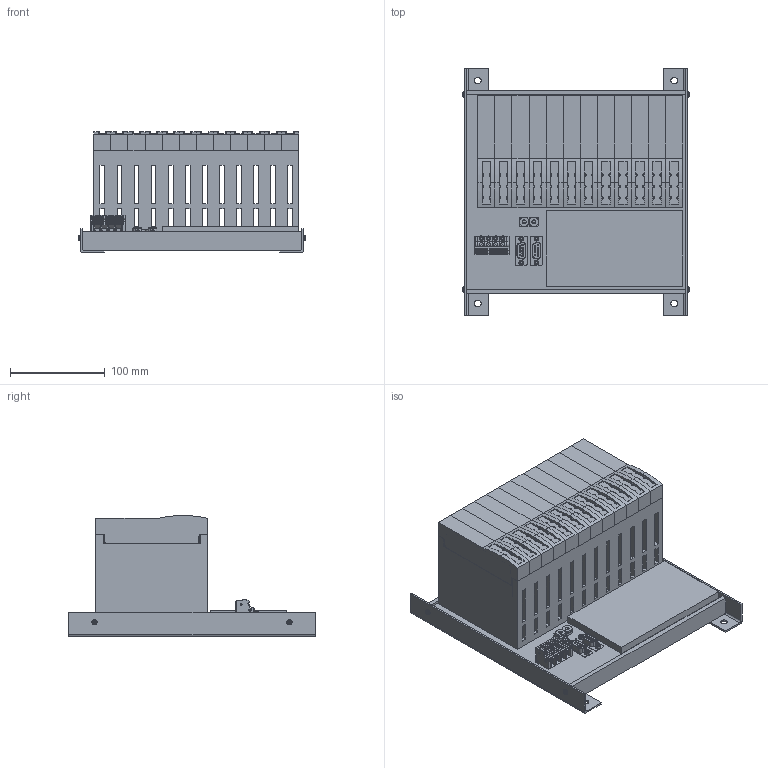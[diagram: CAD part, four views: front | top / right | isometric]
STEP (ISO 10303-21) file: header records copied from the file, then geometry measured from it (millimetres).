
FILE_DESCRIPTION (( 'STEP AP203' ), '1' );
FILE_NAME ('MT08-N-Ass.step', '2016-09-08T19:19:13', ( 'Turck User' ), ( '' ), 'SwSTEP 2.0', 'SolidWorks 2015', '' );
FILE_SCHEMA (( 'CONFIG_CONTROL_DESIGN' ));
Length unit declared in the file: millimetre
Products named in the file (59): GDP-IS-FW2; BS EN ISO 7045 Z - Metric M3 x 4 - 4-8 - Z; 1706112; MT9-R024-Base-Angle1; 9-PIN SCREW INSERT; BM-DPC-Board1; 1709203; MT08-N-Base; 9-PIN FEMALE; PC-Terminal Strip-4; MT08-N-Ass; GDP-IS-FW1; Switch for MT9-R024; MT08-N-Top
Assembly tree (37 placements, depth 3):
  GDP-IS-FW2
  1706112
  GDP-IS-FW2
  9-PIN SCREW INSERT
  BM-DPC-Board1
Bounding box: 239.74 x 260 x 127.5 mm (x, y, z)
Volume: 1685679 mm3; surface area: 757841.5 mm2
Topology: 45 solids, 45 shells, 2650 faces, 7032 edges, 4628 vertices
Faces by surface type: plane 1696, cylinder 702, cone 208, torus 36, sphere 8
Entity records: 30146 total; most frequent: CARTESIAN_POINT 4967, DIRECTION 4067, ORIENTED_EDGE 4064, EDGE_CURVE 2032, LINE 1475, VECTOR 1475, VERTEX_POINT 1337, AXIS2_PLACEMENT_3D 1296
